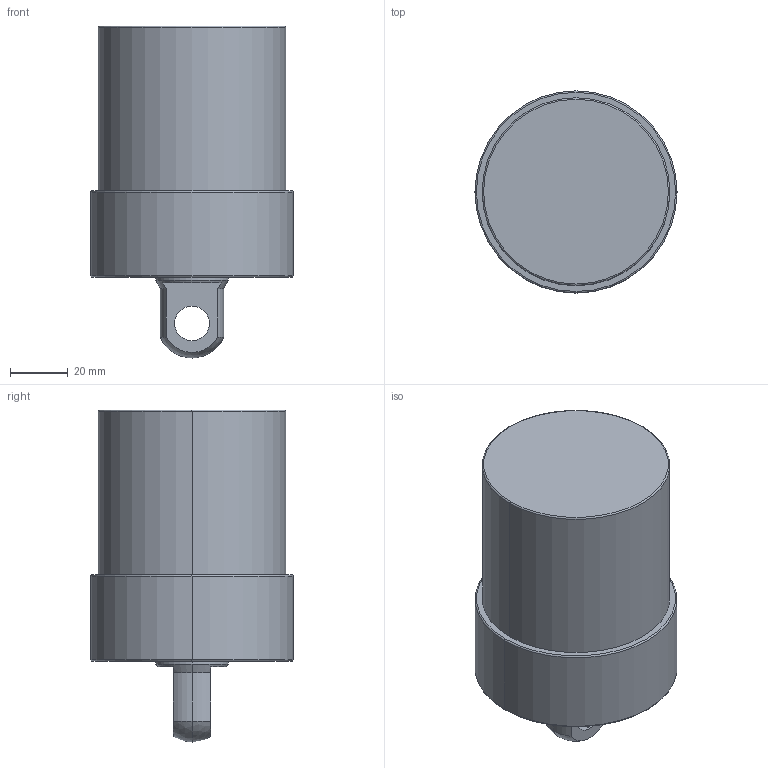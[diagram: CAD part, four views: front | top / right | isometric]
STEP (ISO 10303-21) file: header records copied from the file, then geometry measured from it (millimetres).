
FILE_DESCRIPTION (( 'STEP AP203' ), '1' );
FILE_NAME ('CLLU-065GP-040.STEP', '2020-01-06T09:22:30', ( '' ), ( '' ), 'SwSTEP 2.0', 'SolidWorks 2015', '' );
FILE_SCHEMA (( 'CONFIG_CONTROL_DESIGN' ));
Length unit declared in the file: millimetre
Products named in the file (1): CLLU-065GP-040
Bounding box: 70 x 70 x 115 mm (x, y, z)
Volume: 308785.2 mm3; surface area: 28734.8 mm2
Topology: 1 solids, 1 shells, 58 faces, 131 edges, 75 vertices
Faces by surface type: cylinder 23, cone 18, plane 9, torus 6, sphere 2
Entity records: 1658 total; most frequent: DIRECTION 311, CARTESIAN_POINT 269, ORIENTED_EDGE 246, AXIS2_PLACEMENT_3D 133, EDGE_CURVE 123, VERTEX_POINT 75, CIRCLE 74, EDGE_LOOP 68
